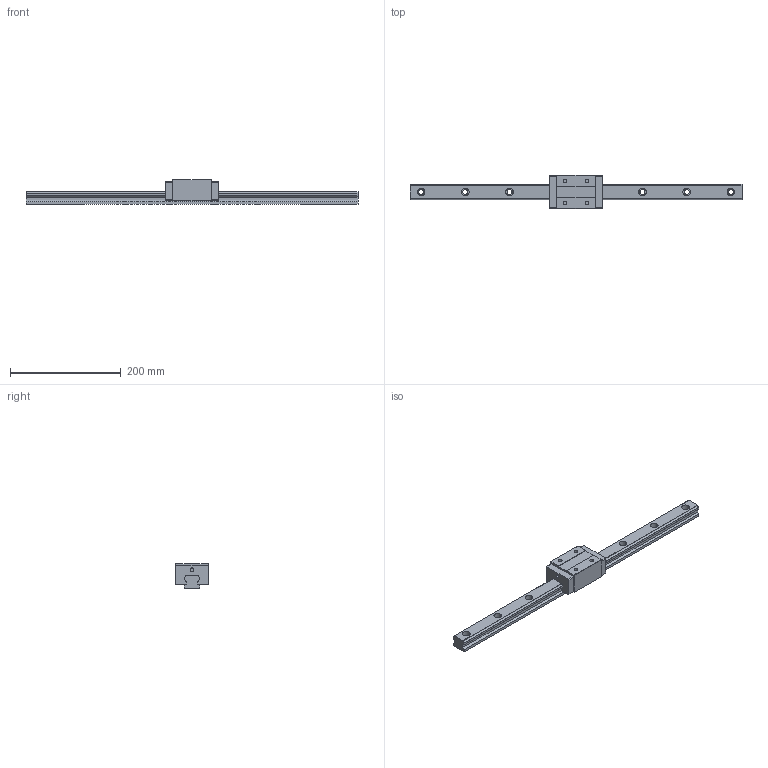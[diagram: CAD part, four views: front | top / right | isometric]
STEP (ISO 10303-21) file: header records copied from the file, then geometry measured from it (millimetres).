
FILE_DESCRIPTION (( 'STEP AP203' ), '1' );
FILE_NAME ('TRH30VN-XNC.STEP', '2024-08-16T06:43:15', ( '' ), ( '' ), 'SwSTEP 2.0', 'SolidWorks 2021', '' );
FILE_SCHEMA (( 'CONFIG_CONTROL_DESIGN' ));
Length unit declared in the file: millimetre
Products named in the file (1): TRH30VN-XNC
Bounding box: 600 x 60 x 45 mm (x, y, z)
Volume: 491765 mm3; surface area: 94321.4 mm2
Topology: 1 solids, 1 shells, 164 faces, 448 edges, 296 vertices
Faces by surface type: plane 84, cylinder 80
Entity records: 5345 total; most frequent: DIRECTION 942, CARTESIAN_POINT 909, ORIENTED_EDGE 896, EDGE_CURVE 448, AXIS2_PLACEMENT_3D 329, VERTEX_POINT 296, VECTOR 284, LINE 284
